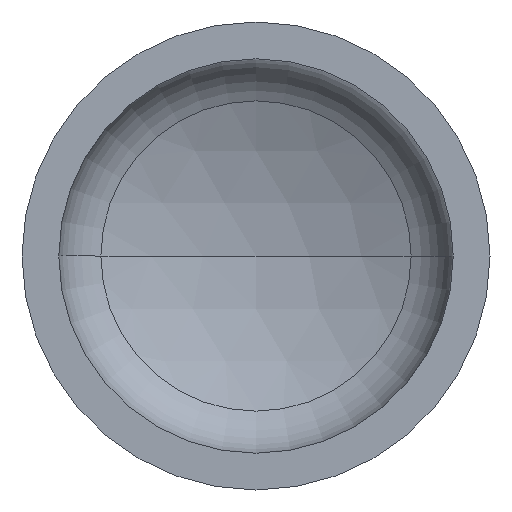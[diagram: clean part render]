
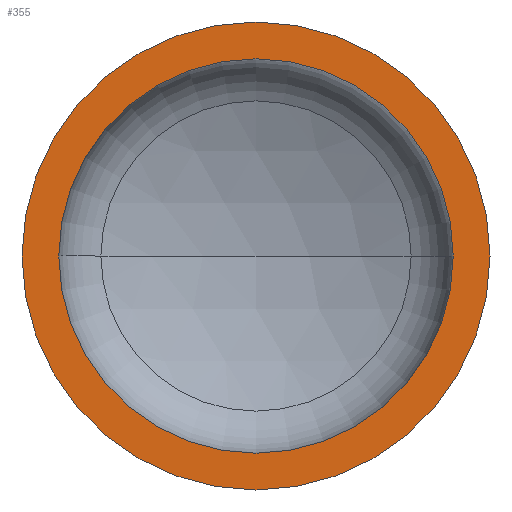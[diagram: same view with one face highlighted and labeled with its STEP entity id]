
A CAD part, front view. The second image highlights one B-rep face of the part: STEP entity #355.
In plain terms, the highlighted planar face has unit normal (0, -1, 0).
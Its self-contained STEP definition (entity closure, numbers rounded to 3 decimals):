
#26 = CARTESIAN_POINT ( 'NONE',  ( -700., 0., 0. ) ) ;
#27 = AXIS2_PLACEMENT_3D ( 'NONE', #298, #383, #250 ) ;
#36 = CARTESIAN_POINT ( 'NONE',  ( 0., 0., 0. ) ) ;
#41 = AXIS2_PLACEMENT_3D ( 'NONE', #36, #203, #281 ) ;
#44 = AXIS2_PLACEMENT_3D ( 'NONE', #257, #241, #240 ) ;
#48 = CARTESIAN_POINT ( 'NONE',  ( -700., 0., 0. ) ) ;
#62 = EDGE_CURVE ( 'NONE', #133, #227, #323, .T. ) ;
#63 = EDGE_CURVE ( 'NONE', #208, #384, #87, .T. ) ;
#87 = CIRCLE ( 'NONE', #41, 590. ) ;
#93 = ORIENTED_EDGE ( 'NONE', *, *, #375, .T. ) ;
#102 = FACE_BOUND ( 'NONE', #152, .T. ) ;
#110 = PLANE ( 'NONE',  #168 ) ;
#116 = DIRECTION ( 'NONE',  ( 1., 0., 0. ) ) ;
#129 = CARTESIAN_POINT ( 'NONE',  ( 590., 0., 0. ) ) ;
#133 = VERTEX_POINT ( 'NONE', #26 ) ;
#139 = ORIENTED_EDGE ( 'NONE', *, *, #62, .T. ) ;
#152 = EDGE_LOOP ( 'NONE', ( #179, #202 ) ) ;
#164 = EDGE_LOOP ( 'NONE', ( #93, #139 ) ) ;
#168 = AXIS2_PLACEMENT_3D ( 'NONE', #48, #274, #356 ) ;
#179 = ORIENTED_EDGE ( 'NONE', *, *, #63, .F. ) ;
#187 = CIRCLE ( 'NONE', #191, 700. ) ;
#191 = AXIS2_PLACEMENT_3D ( 'NONE', #366, #302, #116 ) ;
#202 = ORIENTED_EDGE ( 'NONE', *, *, #331, .F. ) ;
#203 = DIRECTION ( 'NONE',  ( 0., -1., 0. ) ) ;
#208 = VERTEX_POINT ( 'NONE', #129 ) ;
#227 = VERTEX_POINT ( 'NONE', #376 ) ;
#240 = DIRECTION ( 'NONE',  ( 1., 0., 0. ) ) ;
#241 = DIRECTION ( 'NONE',  ( 0., -1., 0. ) ) ;
#250 = DIRECTION ( 'NONE',  ( 1., 0., 0. ) ) ;
#257 = CARTESIAN_POINT ( 'NONE',  ( 0., 0., 0. ) ) ;
#274 = DIRECTION ( 'NONE',  ( 0., 1., 0. ) ) ;
#281 = DIRECTION ( 'NONE',  ( 1., 0., 0. ) ) ;
#292 = CIRCLE ( 'NONE', #27, 590. ) ;
#298 = CARTESIAN_POINT ( 'NONE',  ( 0., 0., 0. ) ) ;
#302 = DIRECTION ( 'NONE',  ( 0., -1., 0. ) ) ;
#323 = CIRCLE ( 'NONE', #44, 700. ) ;
#331 = EDGE_CURVE ( 'NONE', #384, #208, #292, .T. ) ;
#355 = ADVANCED_FACE ( 'NONE', ( #102, #379 ), #110, .F. ) ;
#356 = DIRECTION ( 'NONE',  ( -1., 0., 0. ) ) ;
#366 = CARTESIAN_POINT ( 'NONE',  ( 0., 0., 0. ) ) ;
#375 = EDGE_CURVE ( 'NONE', #227, #133, #187, .T. ) ;
#376 = CARTESIAN_POINT ( 'NONE',  ( 700., 0., 0. ) ) ;
#379 = FACE_OUTER_BOUND ( 'NONE', #164, .T. ) ;
#383 = DIRECTION ( 'NONE',  ( 0., -1., 0. ) ) ;
#384 = VERTEX_POINT ( 'NONE', #410 ) ;
#410 = CARTESIAN_POINT ( 'NONE',  ( -590., 0., 0. ) ) ;
